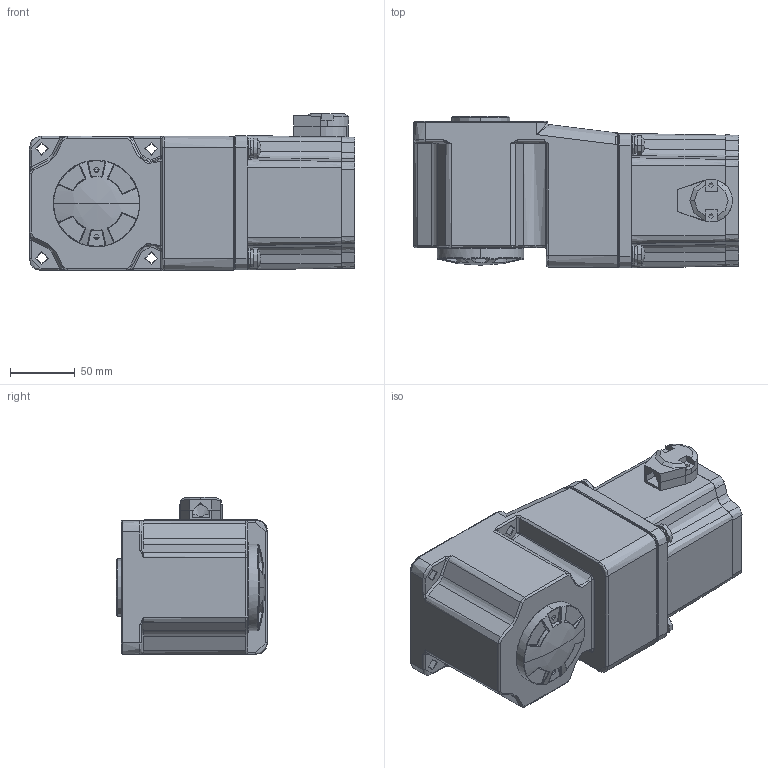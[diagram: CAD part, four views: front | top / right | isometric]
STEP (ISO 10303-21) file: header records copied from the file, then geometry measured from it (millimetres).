
FILE_DESCRIPTION (( 'STEP AP203' ), '1' );
FILE_NAME ('104饜RC.STEP', '2019-03-27T07:41:39', ( 'admin' ), ( '' ), 'SwSTEP 2.0', 'SolidWorks 2011', '' );
FILE_SCHEMA (( 'CONFIG_CONTROL_DESIGN' ));
Products named in the file (18): 104饜RC; 6RK120GU-CMFT 6GU3K‵180KRC; PRT0002; PRT0001; PRODUCT_3308; PRODUCT_3325; NONE; ____8; ____5; ____4; ____3; ____2; ____11; ____12; ____7; ____6; ____13; ____10
Assembly tree (17 placements, depth 2):
  104饜RC
    PRT0001
    ____13
    6RK120GU-CMFT 6GU3K‵180KRC
    NONE
    ____6
    ____10
    ____3
    ____7
    PRT0002
    ____12
    ____4
    ____11
    PRODUCT_3325
    ____5
    PRODUCT_3308
    ____8
    ____2
Bounding box: 251.8 x 117.57 x 121.73 mm (x, y, z)
Volume: 324014.8 mm3; surface area: 360926.4 mm2
Topology: 16 solids, 22 shells, 2096 faces, 5248 edges, 3187 vertices
Faces by surface type: bspline 676, cylinder 669, plane 459, cone 292
Entity records: 108317 total; most frequent: CARTESIAN_POINT 63875, ORIENTED_EDGE 10366, DIRECTION 6873, EDGE_CURVE 5184, VERTEX_POINT 3184, AXIS2_PLACEMENT_3D 2717, EDGE_LOOP 2213, FACE_OUTER_BOUND 2096
